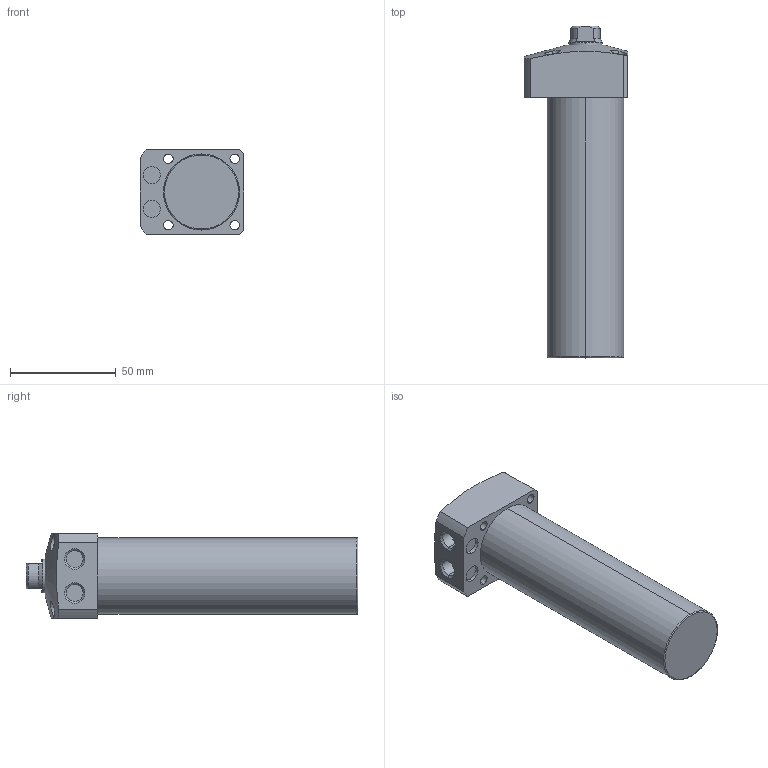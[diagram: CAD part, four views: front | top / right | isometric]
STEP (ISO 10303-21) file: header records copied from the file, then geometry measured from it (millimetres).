
FILE_DESCRIPTION (( 'STEP AP203' ), '1' );
FILE_NAME ('CLL-036CA-100.STEP', '2019-12-20T09:13:55', ( '' ), ( '' ), 'SwSTEP 2.0', 'SolidWorks 2015', '' );
FILE_SCHEMA (( 'CONFIG_CONTROL_DESIGN' ));
Length unit declared in the file: millimetre
Products named in the file (1): CLL-036CA-100
Bounding box: 49 x 157 x 40 mm (x, y, z)
Volume: 166641.2 mm3; surface area: 24086.5 mm2
Topology: 1 solids, 1 shells, 72 faces, 166 edges, 105 vertices
Faces by surface type: cylinder 34, plane 22, cone 14, torus 2
Entity records: 2453 total; most frequent: CARTESIAN_POINT 708, DIRECTION 364, ORIENTED_EDGE 328, EDGE_CURVE 164, AXIS2_PLACEMENT_3D 151, VERTEX_POINT 105, EDGE_LOOP 91, CIRCLE 78
